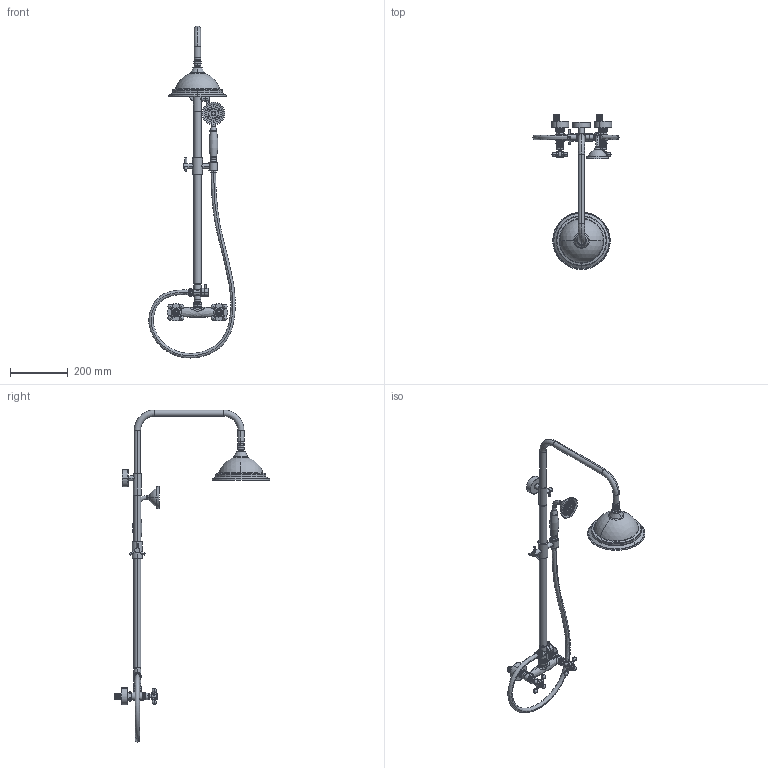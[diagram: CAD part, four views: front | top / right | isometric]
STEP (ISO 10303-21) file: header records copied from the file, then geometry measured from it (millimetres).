
FILE_DESCRIPTION (( 'STEP AP214' ), '1' );
FILE_NAME ('SH613.STEP', '2021-02-23T06:22:34', ( '微软用户' ), ( '微软中国' ), 'SwSTEP 2.0', 'SolidWorks 2014', '' );
FILE_SCHEMA (( 'AUTOMOTIVE_DESIGN' ));
Length unit declared in the file: millimetre
Products named in the file (23): 9460煦阨ん; 9134花洒; 埴倛蚾庉戚; 阨弇蹟譫; 阨弇褐; 曲脚胶圈; ⑻褐; SH613忒謫蚾庉聽; 9142棟郋忒謫; SH613蚾庉戚; SH613大淋浴花洒管12; HC-144棟郋; SH613階驗ㄗ党蜊ㄘ; SH613翋极; SH613邀唌奪; 9523蹕譫; SH613; SH613煦阨ん喜渡芞; SH613辦羲煦阨ん諉芛12; 忒謫裝542; 忒謫541; 邀唌煦阨概郋; SH613辦羲煦阨ん諉杶12
Assembly tree (33 placements, depth 3):
  SH613
    SH613翋极
    HC-144棟郋  x2
    SH613蚾庉戚  x2
    9142棟郋忒謫  x2
    SH613忒謫蚾庉聽  x2
    ⑻褐  x2
    曲脚胶圈  x3
    阨弇褐  x3
    阨弇蹟譫  x2
    埴倛蚾庉戚  x2
    9134花洒
    SH613煦阨ん喜渡芞
      9460煦阨ん
      SH613辦羲煦阨ん諉杶12
      邀唌煦阨概郋
      忒謫541
      忒謫裝542
      SH613辦羲煦阨ん諉芛12
    9523蹕譫
    SH613邀唌奪
    SH613階驗ㄗ党蜊ㄘ
    SH613大淋浴花洒管12
Bounding box: 300.29 x 540 x 1153.71 mm (x, y, z)
Volume: 2224092.6 mm3; surface area: 482080.9 mm2
Topology: 35 solids, 35 shells, 2505 faces, 5615 edges, 3549 vertices
Faces by surface type: cylinder 1124, plane 711, torus 346, cone 234, bspline 72, sphere 18
Entity records: 72712 total; most frequent: CARTESIAN_POINT 26576, DIRECTION 9841, ORIENTED_EDGE 8534, EDGE_CURVE 4267, AXIS2_PLACEMENT_3D 4247, VERTEX_POINT 2709, EDGE_LOOP 2358, CIRCLE 2299
